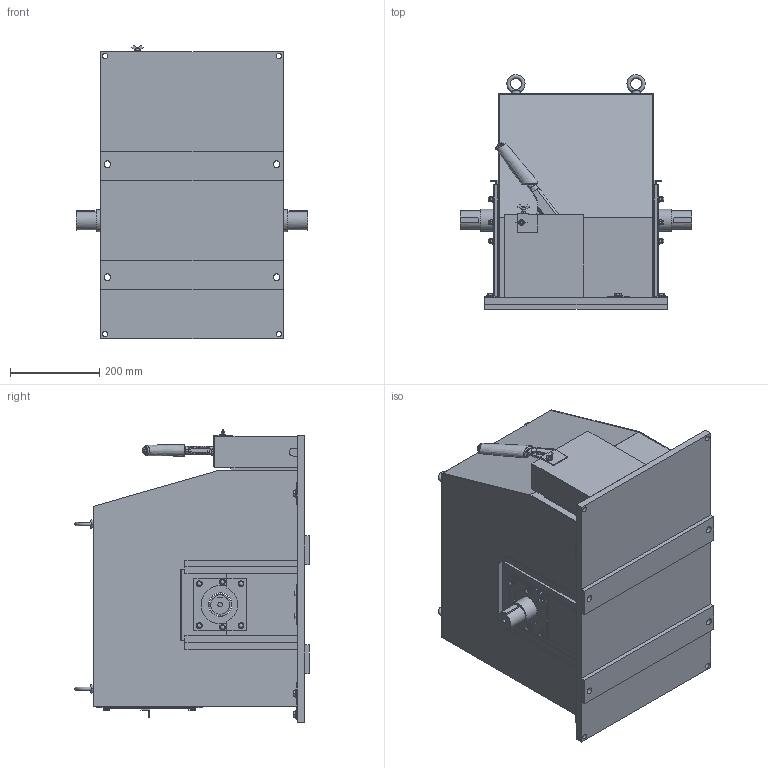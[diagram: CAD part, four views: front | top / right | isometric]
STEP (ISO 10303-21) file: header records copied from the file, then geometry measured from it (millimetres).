
FILE_DESCRIPTION (( 'STEP AP203' ), '1' );
FILE_NAME ('ECE-0813-01_水門用直流電磁ブレーキ.STEP', '2026-04-02T06:44:50', ( '' ), ( '' ), 'SwSTEP 2.0', 'SolidWorks 2025', '' );
FILE_SCHEMA (( 'CONFIG_CONTROL_DESIGN' ));
Length unit declared in the file: millimetre
Products named in the file (1): ECE-0813-01_水門用直流電磁ブレーキ
Bounding box: 520 x 526.49 x 658.91 mm (x, y, z)
Volume: 9896100.9 mm3; surface area: 3028300.8 mm2
Topology: 14 solids, 14 shells, 1071 faces, 2737 edges, 1737 vertices
Faces by surface type: plane 690, cylinder 170, cone 158, sphere 20, torus 17, bspline 16
Full cylindrical faces by diameter (mm): 6 x4, 7 x1, 8.5 x4, 9.5 x1, 10 x17, 12 x5, 13 x18, 15 x8, 18 x7, 42 x2, 50 x1, 53 x2
Entity records: 38310 total; most frequent: CARTESIAN_POINT 13385, ORIENTED_EDGE 5214, DIRECTION 4800, EDGE_CURVE 2607, VERTEX_POINT 1700, VECTOR 1698, LINE 1698, AXIS2_PLACEMENT_3D 1551
